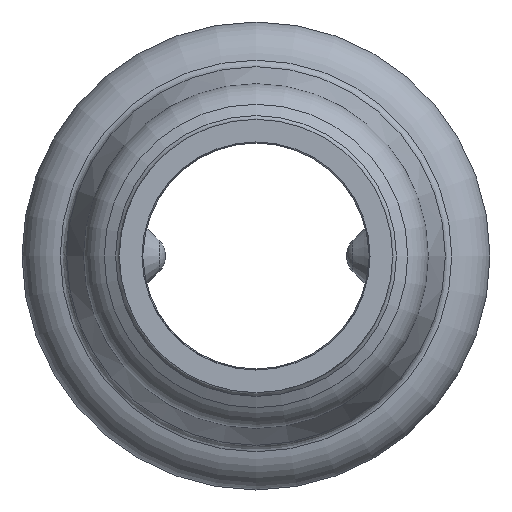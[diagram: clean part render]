
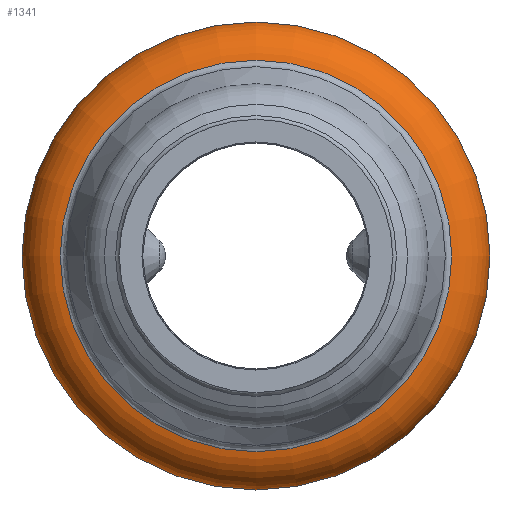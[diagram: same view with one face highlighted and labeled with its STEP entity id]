
A CAD part, left-side view. The second image highlights one B-rep face of the part: STEP entity #1341.
In plain terms, the highlighted toroidal (fillet/blend) face has major radius 12.55 mm and minor radius 3 mm.
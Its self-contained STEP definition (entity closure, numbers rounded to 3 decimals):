
#1307=CARTESIAN_POINT('',(-13.966,13.,0.0));
#1308=VERTEX_POINT('',#1307);
#1309=CARTESIAN_POINT('',(-13.966,0.0,0.0));
#1310=DIRECTION('',(1.0,0.0,0.0));
#1311=DIRECTION('',(0.0,1.0,0.0));
#1312=AXIS2_PLACEMENT_3D('',#1309,#1310,#1311);
#1313=CIRCLE('',#1312,13.);
#1314=EDGE_CURVE('',#1308,#1308,#1313,.T.);
#1322=CARTESIAN_POINT('',(-11.0,0.0,0.0));
#1323=DIRECTION('',(1.0,0.0,0.0));
#1324=DIRECTION('',(0.0,0.0,-1.0));
#1325=AXIS2_PLACEMENT_3D('',#1322,#1323,#1324);
#1326=TOROIDAL_SURFACE('',#1325,12.55,3.0);
#1327=CARTESIAN_POINT('',(-8.402,14.05,0.0));
#1328=VERTEX_POINT('',#1327);
#1329=CARTESIAN_POINT('',(-8.402,0.0,0.0));
#1330=DIRECTION('',(1.0,0.0,0.0));
#1331=DIRECTION('',(0.0,1.0,0.0));
#1332=AXIS2_PLACEMENT_3D('',#1329,#1330,#1331);
#1333=CIRCLE('',#1332,14.05);
#1334=EDGE_CURVE('',#1328,#1328,#1333,.T.);
#1335=ORIENTED_EDGE('',*,*,#1334,.F.);
#1336=EDGE_LOOP('',(#1335));
#1337=FACE_OUTER_BOUND('',#1336,.T.);
#1338=ORIENTED_EDGE('',*,*,#1314,.T.);
#1339=EDGE_LOOP('',(#1338));
#1340=FACE_BOUND('',#1339,.T.);
#1341=ADVANCED_FACE('',(#1337,#1340),#1326,.T.);
